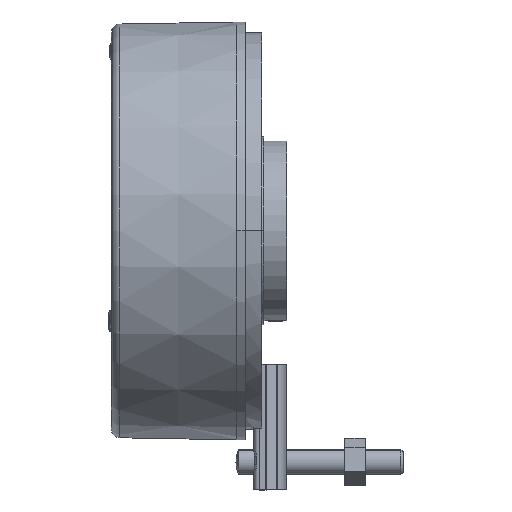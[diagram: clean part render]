
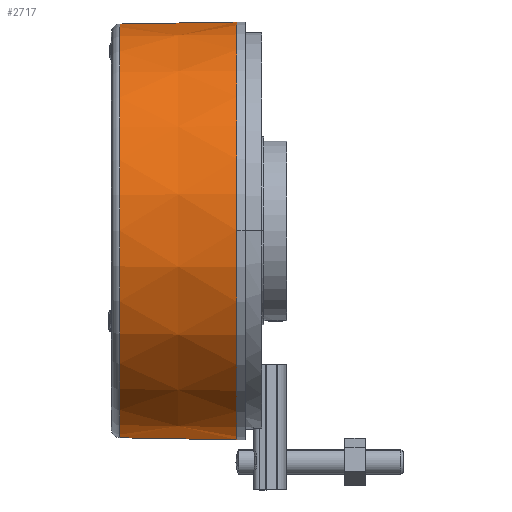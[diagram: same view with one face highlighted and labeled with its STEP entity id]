
A CAD part, top view. The second image highlights one B-rep face of the part: STEP entity #2717.
In plain terms, the highlighted conical face has half-angle 1 degrees and reference radius 50 mm.
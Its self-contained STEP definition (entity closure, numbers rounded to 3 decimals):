
#1135 = DIRECTION ( 'NONE',  ( 1., -0.017, 0. ) ) ;
#1136 = VECTOR ( 'NONE', #1135, 1000. ) ;
#1137 = CARTESIAN_POINT ( 'NONE',  ( 43.227, -53.167, 0. ) ) ;
#1138 = LINE ( 'NONE', #1137, #1136 ) ;
#1139 = CARTESIAN_POINT ( 'NONE',  ( 43.227, 46.833, 0. ) ) ;
#1140 = DIRECTION ( 'NONE',  ( 1., 0.017, 0. ) ) ;
#1141 = VECTOR ( 'NONE', #1140, 1000. ) ;
#1142 = CARTESIAN_POINT ( 'NONE',  ( 43.227, 46.833, 0. ) ) ;
#1143 = LINE ( 'NONE', #1142, #1141 ) ;
#1176 = CARTESIAN_POINT ( 'NONE',  ( 43.227, -53.167, 0. ) ) ;
#1244 = DIRECTION ( 'NONE',  ( 0., 1., 0. ) ) ;
#1245 = DIRECTION ( 'NONE',  ( -1., 0., 0. ) ) ;
#1246 = CARTESIAN_POINT ( 'NONE',  ( 43.227, -3.167, 0. ) ) ;
#1247 = AXIS2_PLACEMENT_3D ( 'NONE', #1246, #1245, #1244 ) ;
#1252 = CIRCLE ( 'NONE', #1247, 50. ) ;
#2694 = EDGE_CURVE ( 'NONE', #2834, #2709, #5521, .T. ) ;
#2697 = ORIENTED_EDGE ( 'NONE', *, *, #2694, .T. ) ;
#2709 = VERTEX_POINT ( 'NONE', #5576 ) ;
#2717 = ADVANCED_FACE ( 'NONE', ( #5573 ), #5552, .T. ) ;
#2737 = EDGE_LOOP ( 'NONE', ( #2751, #2697, #3047, #3063 ) ) ;
#2751 = ORIENTED_EDGE ( 'NONE', *, *, #3045, .F. ) ;
#2834 = VERTEX_POINT ( 'NONE', #10489 ) ;
#3045 = EDGE_CURVE ( 'NONE', #2834, #3046, #1143, .T. ) ;
#3046 = VERTEX_POINT ( 'NONE', #1139 ) ;
#3047 = ORIENTED_EDGE ( 'NONE', *, *, #3048, .T. ) ;
#3048 = EDGE_CURVE ( 'NONE', #2709, #3056, #1138, .T. ) ;
#3056 = VERTEX_POINT ( 'NONE', #1176 ) ;
#3063 = ORIENTED_EDGE ( 'NONE', *, *, #3065, .T. ) ;
#3065 = EDGE_CURVE ( 'NONE', #3056, #3046, #1252, .T. ) ;
#5517 = DIRECTION ( 'NONE',  ( 0., 1., 0. ) ) ;
#5518 = DIRECTION ( 'NONE',  ( 1., 0., 0. ) ) ;
#5519 = CARTESIAN_POINT ( 'NONE',  ( 15.192, -3.167, 0. ) ) ;
#5520 = AXIS2_PLACEMENT_3D ( 'NONE', #5519, #5518, #5517 ) ;
#5521 = CIRCLE ( 'NONE', #5520, 49.511 ) ;
#5551 = AXIS2_PLACEMENT_3D ( 'NONE', #5608, #5607, #5606 ) ;
#5552 = CONICAL_SURFACE ( 'NONE', #5551, 50., 0.017 ) ;
#5573 = FACE_OUTER_BOUND ( 'NONE', #2737, .T. ) ;
#5576 = CARTESIAN_POINT ( 'NONE',  ( 15.192, -52.677, 0. ) ) ;
#5606 = DIRECTION ( 'NONE',  ( 0., -1., 0. ) ) ;
#5607 = DIRECTION ( 'NONE',  ( 1., 0., 0. ) ) ;
#5608 = CARTESIAN_POINT ( 'NONE',  ( 43.227, -3.167, 0. ) ) ;
#10489 = CARTESIAN_POINT ( 'NONE',  ( 15.192, 46.344, 0. ) ) ;
